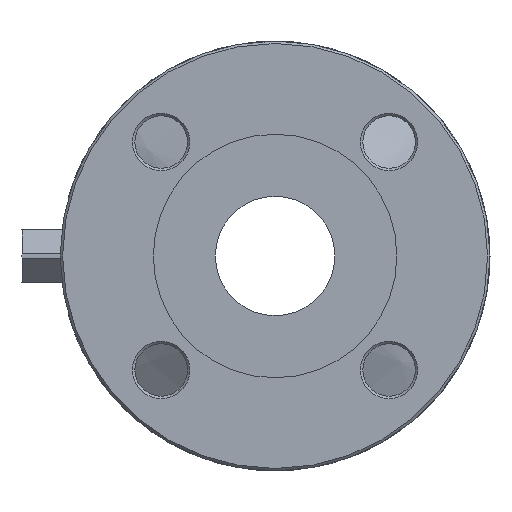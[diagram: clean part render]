
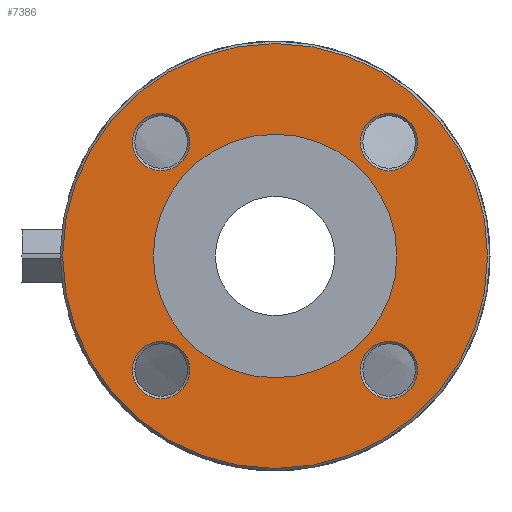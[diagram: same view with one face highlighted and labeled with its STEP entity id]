
A CAD part, left-side view. The second image highlights one B-rep face of the part: STEP entity #7386.
In plain terms, the highlighted planar face has unit normal (-1, 0, 0).
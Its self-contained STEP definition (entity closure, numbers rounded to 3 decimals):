
#7311=CARTESIAN_POINT('',(-109.0,-59.73,-47.73));
#7312=VERTEX_POINT('',#7311);
#7313=CARTESIAN_POINT('',(-109.0,-47.73,-47.73));
#7314=DIRECTION('',(-1.0,0.0,0.0));
#7315=DIRECTION('',(0.0,1.0,0.0));
#7316=AXIS2_PLACEMENT_3D('',#7313,#7314,#7315);
#7317=CIRCLE('',#7316,12.);
#7318=EDGE_CURVE('',#7312,#7312,#7317,.T.);
#7323=CARTESIAN_POINT('',(-109.0,-70.,0.0));
#7324=DIRECTION('',(-1.0,0.0,0.0));
#7325=DIRECTION('',(0.0,0.0,1.0));
#7326=AXIS2_PLACEMENT_3D('',#7323,#7324,#7325);
#7327=PLANE('',#7326);
#7328=CARTESIAN_POINT('',(-109.0,-89.,0.0));
#7329=VERTEX_POINT('',#7328);
#7330=CARTESIAN_POINT('',(-109.,0.0,0.0));
#7331=DIRECTION('',(1.0,0.0,0.0));
#7332=DIRECTION('',(0.0,-1.0,0.0));
#7333=AXIS2_PLACEMENT_3D('',#7330,#7331,#7332);
#7334=CIRCLE('',#7333,89.);
#7335=EDGE_CURVE('',#7329,#7329,#7334,.T.);
#7336=ORIENTED_EDGE('',*,*,#7335,.F.);
#7337=EDGE_LOOP('',(#7336));
#7338=FACE_OUTER_BOUND('',#7337,.T.);
#7339=CARTESIAN_POINT('',(-109.0,-47.73,59.73));
#7340=VERTEX_POINT('',#7339);
#7341=CARTESIAN_POINT('',(-109.0,-47.73,47.73));
#7342=DIRECTION('',(-1.0,0.0,0.0));
#7343=DIRECTION('',(0.0,0.0,-1.0));
#7344=AXIS2_PLACEMENT_3D('',#7341,#7342,#7343);
#7345=CIRCLE('',#7344,12.);
#7346=EDGE_CURVE('',#7340,#7340,#7345,.T.);
#7347=ORIENTED_EDGE('',*,*,#7346,.F.);
#7348=EDGE_LOOP('',(#7347));
#7349=FACE_BOUND('',#7348,.T.);
#7350=CARTESIAN_POINT('',(-109.0,47.73,-59.73));
#7351=VERTEX_POINT('',#7350);
#7352=CARTESIAN_POINT('',(-109.0,47.73,-47.73));
#7353=DIRECTION('',(-1.0,0.0,0.0));
#7354=DIRECTION('',(0.0,0.0,1.0));
#7355=AXIS2_PLACEMENT_3D('',#7352,#7353,#7354);
#7356=CIRCLE('',#7355,12.);
#7357=EDGE_CURVE('',#7351,#7351,#7356,.T.);
#7358=ORIENTED_EDGE('',*,*,#7357,.F.);
#7359=EDGE_LOOP('',(#7358));
#7360=FACE_BOUND('',#7359,.T.);
#7361=CARTESIAN_POINT('',(-109.0,-51.,0.0));
#7362=VERTEX_POINT('',#7361);
#7363=CARTESIAN_POINT('',(-109.,0.0,0.0));
#7364=DIRECTION('',(1.0,0.0,0.0));
#7365=DIRECTION('',(0.0,-1.0,0.0));
#7366=AXIS2_PLACEMENT_3D('',#7363,#7364,#7365);
#7367=CIRCLE('',#7366,51.);
#7368=EDGE_CURVE('',#7362,#7362,#7367,.T.);
#7369=ORIENTED_EDGE('',*,*,#7368,.T.);
#7370=EDGE_LOOP('',(#7369));
#7371=FACE_BOUND('',#7370,.T.);
#7372=CARTESIAN_POINT('',(-109.0,59.73,47.73));
#7373=VERTEX_POINT('',#7372);
#7374=CARTESIAN_POINT('',(-109.0,47.73,47.73));
#7375=DIRECTION('',(-1.0,0.0,0.0));
#7376=DIRECTION('',(0.0,-1.0,0.0));
#7377=AXIS2_PLACEMENT_3D('',#7374,#7375,#7376);
#7378=CIRCLE('',#7377,12.);
#7379=EDGE_CURVE('',#7373,#7373,#7378,.T.);
#7380=ORIENTED_EDGE('',*,*,#7379,.F.);
#7381=EDGE_LOOP('',(#7380));
#7382=FACE_BOUND('',#7381,.T.);
#7383=ORIENTED_EDGE('',*,*,#7318,.F.);
#7384=EDGE_LOOP('',(#7383));
#7385=FACE_BOUND('',#7384,.T.);
#7386=ADVANCED_FACE('',(#7338,#7349,#7360,#7371,#7382,#7385),#7327,.T.);
